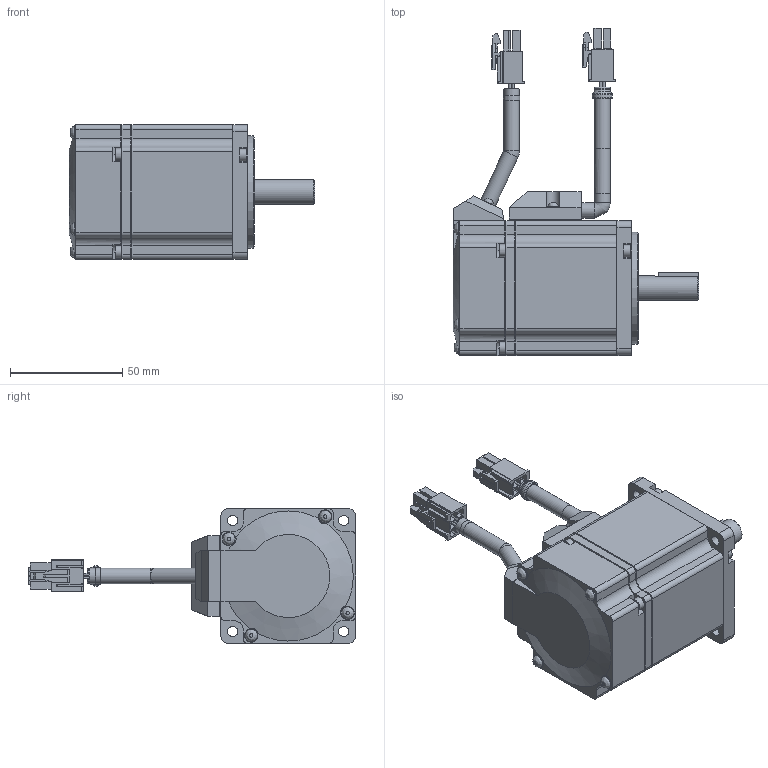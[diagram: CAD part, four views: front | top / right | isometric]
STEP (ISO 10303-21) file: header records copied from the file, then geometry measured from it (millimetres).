
FILE_DESCRIPTION( ( 'STEP AP203' ), '1' );
FILE_NAME( '//expscmdclustefs.cadenas.external/client_exchange/iodir/jobs/output/wkb71153496_no0/STEP/_MSMD022P1SA_2_03.stp', ' ', ( ' ' ), ( ' ' ), 'PSStep 15.0.47', 'PARTsolutions', ' ' );
FILE_SCHEMA( ( 'CONFIG_CONTROL_DESIGN' ) );
Length unit declared in the file: millimetre
Products named in the file (8):  MSMD022P1SA; HI_Motor--02-APBB; HI_Motoplug--02A; HI_Cabel Motoplug--02P; HI_Motor Connector; HI_Encoder--02P; HI_Cabel  brake--02-P-6; HI_2500 p/r Connector
Assembly tree (7 placements, depth 2):
   MSMD022P1SA
    HI_Motor--02-APBB
    HI_Motoplug--02A
    HI_Cabel Motoplug--02P
    HI_Motor Connector
    HI_Encoder--02P
    HI_Cabel  brake--02-P-6
    HI_2500 p/r Connector
Bounding box: 109.5 x 145.8 x 60 mm (x, y, z)
Volume: 285650.1 mm3; surface area: 43935 mm2
Topology: 7 solids, 7 shells, 707 faces, 1805 edges, 1181 vertices
Faces by surface type: plane 503, cylinder 175, cone 15, bspline 8, torus 6
Full cylindrical faces by diameter (mm): 1 x8, 1.82 x4, 2.6 x10, 3.242 x1, 4.5 x8, 5.5 x8, 6 x4, 7 x7, 7.2 x1, 9 x1, 11 x1, 11.5 x1, 14.5 x1, 27.5 x1, 50 x1
Entity records: 21276 total; most frequent: CARTESIAN_POINT 3994, DIRECTION 3491, ORIENTED_EDGE 3414, EDGE_CURVE 1707, LINE 1295, VECTOR 1295, VERTEX_POINT 1167, AXIS2_PLACEMENT_3D 1098
